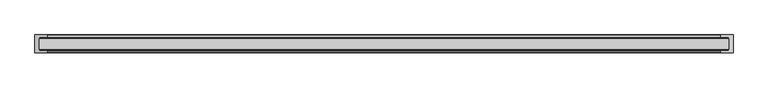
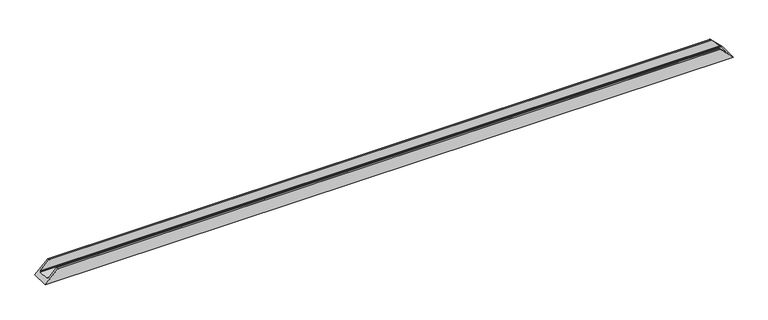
"""IFC4 building model written with IfcOpenShell, lengths in millimetres: proxy geometry, Weiku - Montante - Caixilho único 02.3.02.403 : Weiku - Montante - Caixilho único 02.3.02.403."""

from ifc_helpers import new_model, si_unit, frame, origin, place, context, project, spatial, ellipse_curve, source, transform, mapped, element, save
from ifc_brep_helpers import plane_surface, cylinder_surface, advanced_brep


def generic_models_080d3bd6(model_context):
    return source(origin(), model_context, "Body", "AdvancedBrep", [
        advanced_brep(
        [(-1508.0, -9.8, 18.2), (1508.0, -9.8, 18.2), (1470.3, -9.8, 55.9), (-1470.3, -9.8, 55.9), (-1510.5000079, -63.85, 15.6999921), (1510.5000079, -63.85, 15.6999921), (1510.5000079, -15.05, 15.6999921), (-1510.5000079, -15.05, 15.6999921), (-1526.2, -78.9, 0.0), (-1526.2, 0.0, 0.0), (1526.2, 0.0, 0.0), (1526.2, -78.9, 0.0), (-1470.3, 0.0, 55.9), (1470.3, 0.0, 55.9), (-1469.8, -9.3, 56.4), (1469.8, -9.3, 56.4), (1469.8, -0.5, 56.4), (-1469.8, -0.5, 56.4), (-1508.0, -15.05, 18.2), (1508.0, -15.05, 18.2), (-1508.0, -63.85, 18.2), (1508.0, -63.85, 18.2), (-1508.0, -69.1, 18.2), (1508.0, -69.1, 18.2), (-1470.3, -69.1, 55.9), (1470.3, -69.1, 55.9), (-1469.8, -78.4, 56.4), (1469.8, -78.4, 56.4), (1469.8, -69.6, 56.4), (-1469.8, -69.6, 56.4), (-1470.3, -78.9, 55.9), (1470.3, -78.9, 55.9)],
        [
            (0, 1),
            (1, 2),
            (2, 3),
            (3, 0),
            (4, 5),
            (5, 6),
            (6, 7),
            (7, 4),
            (8, 9),
            (9, 10),
            (10, 11),
            (11, 8),
            (9, 12),
            (12, 13),
            (13, 10),
            (14, 15),
            (15, 16),
            (16, 17),
            (17, 14),
            (18, 19),
            (19, 1),
            (0, 18),
            (6, 19),
            (18, 7),
            (16, 13, ellipse_curve(frame((1470.3, -0.5, 55.9), z_axis=(-0.7071067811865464, 0.0, -0.7071067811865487), x_axis=(-0.7071067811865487, 0.0, 0.7071067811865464)), 0.7071068, 0.5)),
            (12, 17, ellipse_curve(frame((-1470.3, -0.5, 55.9), z_axis=(0.7071067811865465, 0.0, -0.7071067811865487), x_axis=(-0.7071067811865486, 0.0, -0.7071067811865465)), 0.7071068, 0.5)),
            (20, 21),
            (21, 5),
            (4, 20),
            (22, 23),
            (23, 21),
            (20, 22),
            (24, 25),
            (25, 23),
            (22, 24),
            (26, 27),
            (27, 28),
            (28, 29),
            (29, 26),
            (30, 31),
            (31, 27, ellipse_curve(frame((1470.3, -78.4, 55.9), z_axis=(-0.7071067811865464, 0.0, -0.7071067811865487), x_axis=(-0.7071067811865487, 0.0, 0.7071067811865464)), 0.7071068, 0.5)),
            (26, 30, ellipse_curve(frame((-1470.3, -78.4, 55.9), z_axis=(0.7071067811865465, 0.0, -0.7071067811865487), x_axis=(-0.7071067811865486, 0.0, -0.7071067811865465)), 0.7071068, 0.5)),
            (11, 31),
            (30, 8),
            (2, 15, ellipse_curve(frame((1470.3, -9.3, 55.9), z_axis=(-0.7071067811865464, 0.0, -0.7071067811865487), x_axis=(-0.7071067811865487, 0.0, 0.7071067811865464)), 0.7071068, 0.5)),
            (14, 3, ellipse_curve(frame((-1470.3, -9.3, 55.9), z_axis=(0.7071067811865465, 0.0, -0.7071067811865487), x_axis=(-0.7071067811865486, 0.0, -0.7071067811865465)), 0.7071068, 0.5)),
            (28, 25, ellipse_curve(frame((1470.3, -69.6, 55.9), z_axis=(-0.7071067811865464, 0.0, -0.7071067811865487), x_axis=(-0.7071067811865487, 0.0, 0.7071067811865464)), 0.7071068, 0.5)),
            (24, 29, ellipse_curve(frame((-1470.3, -69.6, 55.9), z_axis=(0.7071067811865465, 0.0, -0.7071067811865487), x_axis=(-0.7071067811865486, 0.0, -0.7071067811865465)), 0.7071068, 0.5)),
        ],
        [
            plane_surface(frame((-1526.2, -9.8, 55.9), z_axis=(0.0, -1.0, 0.0), x_axis=(1.0, 0.0, 0.0))),
            plane_surface(frame((-1526.2, -15.05, 15.6999921), z_axis=(0.0, 0.0, 1.0), x_axis=(1.0, 0.0, 0.0))),
            plane_surface(frame((-1526.2, -78.9, 0.0), z_axis=(0.0, 0.0, -1.0), x_axis=(1.0, 0.0, 0.0))),
            plane_surface(frame((-1526.2, 0.0, 0.0), z_axis=(0.0, 1.0, 0.0), x_axis=(1.0, 0.0, 0.0))),
            plane_surface(frame((-1526.2, -0.5, 56.4), z_axis=(0.0, 0.0, 1.0), x_axis=(1.0, 0.0, 0.0))),
            plane_surface(frame((-1526.2, -9.8, 18.2), z_axis=(0.0, 0.0, 1.0), x_axis=(1.0, 0.0, 0.0))),
            plane_surface(frame((-1526.2, -15.05, 18.2), z_axis=(0.0, -1.0, 0.0), x_axis=(1.0, 0.0, 0.0))),
            cylinder_surface(frame((-1526.2, -0.5, 55.9), z_axis=(-1.0, 0.0, 0.0), x_axis=(0.0, -1.0, 0.0)), 0.5),
            plane_surface(frame((-1526.2, -63.85, 15.6999921), z_axis=(0.0, 1.0, 0.0), x_axis=(1.0, 0.0, 0.0))),
            plane_surface(frame((-1526.2, -63.85, 18.2), z_axis=(0.0, 0.0, 1.0), x_axis=(1.0, 0.0, 0.0))),
            plane_surface(frame((-1526.2, -69.1, 18.2), z_axis=(0.0, 1.0, 0.0), x_axis=(1.0, 0.0, 0.0))),
            plane_surface(frame((-1526.2, -69.6, 56.4), z_axis=(0.0, 0.0, 1.0), x_axis=(1.0, 0.0, 0.0))),
            cylinder_surface(frame((-1526.2, -78.4, 55.9), z_axis=(-1.0, 0.0, 0.0), x_axis=(0.0, 1.0, 0.0)), 0.5),
            plane_surface(frame((-1526.2, -78.9, 55.9), z_axis=(0.0, -1.0, 0.0), x_axis=(1.0, 0.0, 0.0))),
            cylinder_surface(frame((-1526.2, -9.3, 55.9), z_axis=(-1.0, 0.0, 0.0), x_axis=(0.0, -1.0, 0.0)), 0.5),
            cylinder_surface(frame((-1526.2, -69.6, 55.9), z_axis=(-1.0, 0.0, 0.0), x_axis=(0.0, -1.0, 0.0)), 0.5),
            plane_surface(frame((-1526.2, 0.0, 0.0), z_axis=(-0.7071067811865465, 0.0, 0.7071067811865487), x_axis=(0.0, -1.0, 0.0))),
            plane_surface(frame((1466.2, 0.0, 60.0), z_axis=(0.7071067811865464, 0.0, 0.7071067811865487), x_axis=(0.0, -1.0, 0.0))),
        ],
        [
            (0, [[1, 2, 3, 4]]),
            (1, [[5, 6, 7, 8]]),
            (2, [[9, 10, 11, 12]]),
            (3, [[13, 14, 15, -10]]),
            (4, [[16, 17, 18, 19]]),
            (5, [[20, 21, -1, 22]]),
            (6, [[-7, 23, -20, 24]]),
            (7, [[-18, 25, -14, 26]]),
            (8, [[27, 28, -5, 29]]),
            (9, [[30, 31, -27, 32]]),
            (10, [[33, 34, -30, 35]]),
            (11, [[36, 37, 38, 39]]),
            (12, [[40, 41, -36, 42]]),
            (13, [[43, -40, 44, -12]]),
            (14, [[-3, 45, -16, 46]]),
            (15, [[-38, 47, -33, 48]]),
            (16, [[-46, -19, -26, -13, -9, -44, -42, -39, -48, -35, -32, -29, -8, -24, -22, -4]]),
            (17, [[-21, -23, -6, -28, -31, -34, -47, -37, -41, -43, -11, -15, -25, -17, -45, -2]]),
        ],
    ),
    ])


if __name__ == "__main__":
    model = new_model("IFC4")
    model_context = context("Model", 3, world=origin())
    ifc_project = project(units=[si_unit("LENGTHUNIT", "METRE", prefix="MILLI")], contexts=[model_context])
    site = spatial("IfcSite", under=ifc_project)
    building = spatial("IfcBuilding", under=site)
    placement = place(None, origin())
    generic_models_shape = generic_models_080d3bd6(model_context)
    element("IfcBuildingElementProxy", 1, Name="Weiku - Montante - Caixilho único 02.3.02.403 : Weiku - Montante - Caixilho único 02.3.02.403", ObjectType="Weiku - Montante - Caixilho único 02.3.02.403 : Weiku - Montante - Caixilho único 02.3.02.403", at=placement, inside=building, context=model_context, shape_type="MappedRepresentation", body=[
        mapped(generic_models_shape, transform((0.0, 0.0, 0.0), x_axis=(1.0, 0.0, 0.0), y_axis=(0.0, 1.0, 0.0), z_axis=(0.0, 0.0, 1.0))),
    ])
    save(model, "model.ifc")
